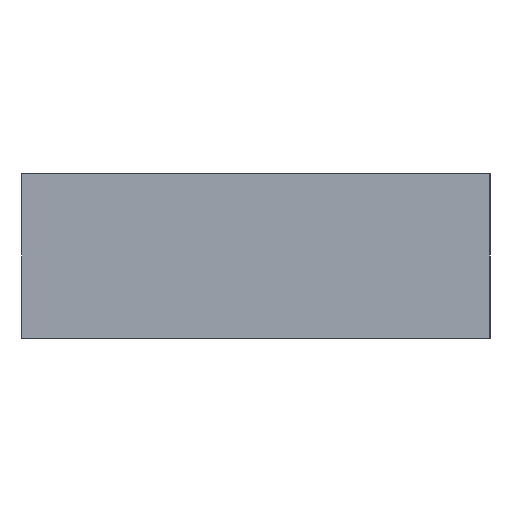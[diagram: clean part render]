
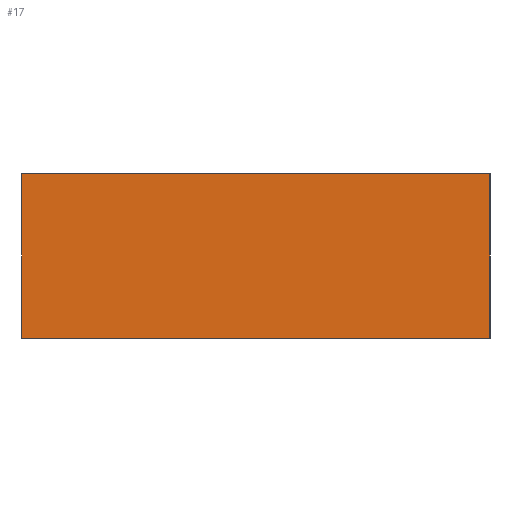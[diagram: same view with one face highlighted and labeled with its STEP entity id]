
A CAD part, left-side view. The second image highlights one B-rep face of the part: STEP entity #17.
In plain terms, the highlighted planar face has unit normal (-1, 0, 0).
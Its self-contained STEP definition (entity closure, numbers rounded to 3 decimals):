
#17 = ADVANCED_FACE('',(#18),#32,.F.);
#18 = FACE_BOUND('',#19,.F.);
#19 = EDGE_LOOP('',(#20,#55,#83,#111));
#20 = ORIENTED_EDGE('',*,*,#21,.F.);
#21 = EDGE_CURVE('',#22,#24,#26,.T.);
#22 = VERTEX_POINT('',#23);
#23 = CARTESIAN_POINT('',(-10.,-5.7,-2.));
#24 = VERTEX_POINT('',#25);
#25 = CARTESIAN_POINT('',(-10.,-5.7,2.));
#26 = SURFACE_CURVE('',#27,(#31,#43),.PCURVE_S1.);
#27 = LINE('',#28,#29);
#28 = CARTESIAN_POINT('',(-10.,-5.7,-2.));
#29 = VECTOR('',#30,1.);
#30 = DIRECTION('',(0.,0.,1.));
#31 = PCURVE('',#32,#37);
#32 = PLANE('',#33);
#33 = AXIS2_PLACEMENT_3D('',#34,#35,#36);
#34 = CARTESIAN_POINT('',(-10.,-5.7,-2.));
#35 = DIRECTION('',(1.,0.,0.));
#36 = DIRECTION('',(0.,0.,1.));
#37 = DEFINITIONAL_REPRESENTATION('',(#38),#42);
#38 = LINE('',#39,#40);
#39 = CARTESIAN_POINT('',(0.,0.));
#40 = VECTOR('',#41,1.);
#41 = DIRECTION('',(1.,0.));
#42 = ( GEOMETRIC_REPRESENTATION_CONTEXT(2) 
PARAMETRIC_REPRESENTATION_CONTEXT() REPRESENTATION_CONTEXT('2D SPACE',''
  ) );
#43 = PCURVE('',#44,#49);
#44 = PLANE('',#45);
#45 = AXIS2_PLACEMENT_3D('',#46,#47,#48);
#46 = CARTESIAN_POINT('',(-10.,-5.7,-2.));
#47 = DIRECTION('',(0.,1.,0.));
#48 = DIRECTION('',(0.,0.,1.));
#49 = DEFINITIONAL_REPRESENTATION('',(#50),#54);
#50 = LINE('',#51,#52);
#51 = CARTESIAN_POINT('',(0.,0.));
#52 = VECTOR('',#53,1.);
#53 = DIRECTION('',(1.,0.));
#54 = ( GEOMETRIC_REPRESENTATION_CONTEXT(2) 
PARAMETRIC_REPRESENTATION_CONTEXT() REPRESENTATION_CONTEXT('2D SPACE',''
  ) );
#55 = ORIENTED_EDGE('',*,*,#56,.T.);
#56 = EDGE_CURVE('',#22,#57,#59,.T.);
#57 = VERTEX_POINT('',#58);
#58 = CARTESIAN_POINT('',(-10.,5.7,-2.));
#59 = SURFACE_CURVE('',#60,(#64,#71),.PCURVE_S1.);
#60 = LINE('',#61,#62);
#61 = CARTESIAN_POINT('',(-10.,-5.7,-2.));
#62 = VECTOR('',#63,1.);
#63 = DIRECTION('',(0.,1.,0.));
#64 = PCURVE('',#32,#65);
#65 = DEFINITIONAL_REPRESENTATION('',(#66),#70);
#66 = LINE('',#67,#68);
#67 = CARTESIAN_POINT('',(0.,0.));
#68 = VECTOR('',#69,1.);
#69 = DIRECTION('',(0.,-1.));
#70 = ( GEOMETRIC_REPRESENTATION_CONTEXT(2) 
PARAMETRIC_REPRESENTATION_CONTEXT() REPRESENTATION_CONTEXT('2D SPACE',''
  ) );
#71 = PCURVE('',#72,#77);
#72 = PLANE('',#73);
#73 = AXIS2_PLACEMENT_3D('',#74,#75,#76);
#74 = CARTESIAN_POINT('',(-10.,-5.7,-2.));
#75 = DIRECTION('',(0.,0.,1.));
#76 = DIRECTION('',(1.,0.,0.));
#77 = DEFINITIONAL_REPRESENTATION('',(#78),#82);
#78 = LINE('',#79,#80);
#79 = CARTESIAN_POINT('',(0.,0.));
#80 = VECTOR('',#81,1.);
#81 = DIRECTION('',(0.,1.));
#82 = ( GEOMETRIC_REPRESENTATION_CONTEXT(2) 
PARAMETRIC_REPRESENTATION_CONTEXT() REPRESENTATION_CONTEXT('2D SPACE',''
  ) );
#83 = ORIENTED_EDGE('',*,*,#84,.T.);
#84 = EDGE_CURVE('',#57,#85,#87,.T.);
#85 = VERTEX_POINT('',#86);
#86 = CARTESIAN_POINT('',(-10.,5.7,2.));
#87 = SURFACE_CURVE('',#88,(#92,#99),.PCURVE_S1.);
#88 = LINE('',#89,#90);
#89 = CARTESIAN_POINT('',(-10.,5.7,-2.));
#90 = VECTOR('',#91,1.);
#91 = DIRECTION('',(0.,0.,1.));
#92 = PCURVE('',#32,#93);
#93 = DEFINITIONAL_REPRESENTATION('',(#94),#98);
#94 = LINE('',#95,#96);
#95 = CARTESIAN_POINT('',(0.,-11.4));
#96 = VECTOR('',#97,1.);
#97 = DIRECTION('',(1.,0.));
#98 = ( GEOMETRIC_REPRESENTATION_CONTEXT(2) 
PARAMETRIC_REPRESENTATION_CONTEXT() REPRESENTATION_CONTEXT('2D SPACE',''
  ) );
#99 = PCURVE('',#100,#105);
#100 = PLANE('',#101);
#101 = AXIS2_PLACEMENT_3D('',#102,#103,#104);
#102 = CARTESIAN_POINT('',(-10.,5.7,-2.));
#103 = DIRECTION('',(0.,1.,0.));
#104 = DIRECTION('',(0.,0.,1.));
#105 = DEFINITIONAL_REPRESENTATION('',(#106),#110);
#106 = LINE('',#107,#108);
#107 = CARTESIAN_POINT('',(0.,0.));
#108 = VECTOR('',#109,1.);
#109 = DIRECTION('',(1.,0.));
#110 = ( GEOMETRIC_REPRESENTATION_CONTEXT(2) 
PARAMETRIC_REPRESENTATION_CONTEXT() REPRESENTATION_CONTEXT('2D SPACE',''
  ) );
#111 = ORIENTED_EDGE('',*,*,#112,.F.);
#112 = EDGE_CURVE('',#24,#85,#113,.T.);
#113 = SURFACE_CURVE('',#114,(#118,#125),.PCURVE_S1.);
#114 = LINE('',#115,#116);
#115 = CARTESIAN_POINT('',(-10.,-5.7,2.));
#116 = VECTOR('',#117,1.);
#117 = DIRECTION('',(0.,1.,0.));
#118 = PCURVE('',#32,#119);
#119 = DEFINITIONAL_REPRESENTATION('',(#120),#124);
#120 = LINE('',#121,#122);
#121 = CARTESIAN_POINT('',(4.,0.));
#122 = VECTOR('',#123,1.);
#123 = DIRECTION('',(0.,-1.));
#124 = ( GEOMETRIC_REPRESENTATION_CONTEXT(2) 
PARAMETRIC_REPRESENTATION_CONTEXT() REPRESENTATION_CONTEXT('2D SPACE',''
  ) );
#125 = PCURVE('',#126,#131);
#126 = PLANE('',#127);
#127 = AXIS2_PLACEMENT_3D('',#128,#129,#130);
#128 = CARTESIAN_POINT('',(-10.,-5.7,2.));
#129 = DIRECTION('',(0.,0.,1.));
#130 = DIRECTION('',(1.,0.,0.));
#131 = DEFINITIONAL_REPRESENTATION('',(#132),#136);
#132 = LINE('',#133,#134);
#133 = CARTESIAN_POINT('',(0.,0.));
#134 = VECTOR('',#135,1.);
#135 = DIRECTION('',(0.,1.));
#136 = ( GEOMETRIC_REPRESENTATION_CONTEXT(2) 
PARAMETRIC_REPRESENTATION_CONTEXT() REPRESENTATION_CONTEXT('2D SPACE',''
  ) );
